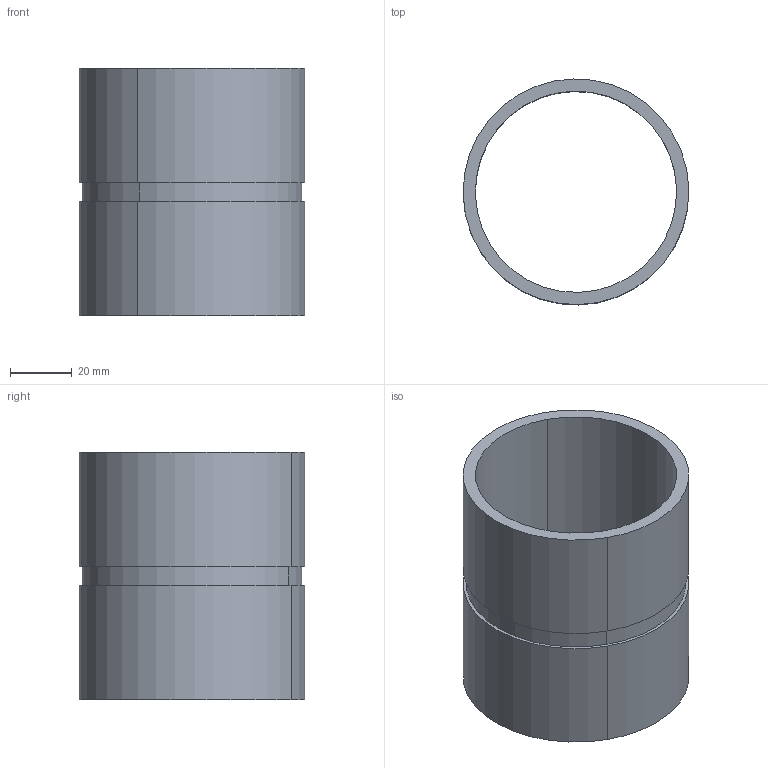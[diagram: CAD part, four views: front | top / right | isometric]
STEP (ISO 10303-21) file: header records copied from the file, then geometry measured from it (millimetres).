
FILE_DESCRIPTION(('CATIA V5 STEP Exchange'),'2;1');
FILE_NAME('C:\Users\Utente\Desktop\3D files 395H FCA\395H 19-232-0252.stp','2020-04-09T13:51:58+00:00',('none'),('none'),'CATIA Version 5 Release 20 GA (IN-10)','CATIA V5 STEP AP203','none');
FILE_SCHEMA(('CONFIG_CONTROL_DESIGN'));
Length unit declared in the file: millimetre
Products named in the file (1): 395H 19-232-0252
Bounding box: 73.01 x 73.01 x 80 mm (x, y, z)
Volume: 67466.4 mm3; surface area: 36851.3 mm2
Topology: 1 solids, 1 shells, 12 faces, 27 edges, 23 vertices
Faces by surface type: cylinder 8, plane 4
Entity records: 375 total; most frequent: CARTESIAN_POINT 61, ORIENTED_EDGE 48, DIRECTION 47, AXIS2_PLACEMENT_3D 27, EDGE_CURVE 24, CIRCLE 16, EDGE_LOOP 16, VERTEX_POINT 16
